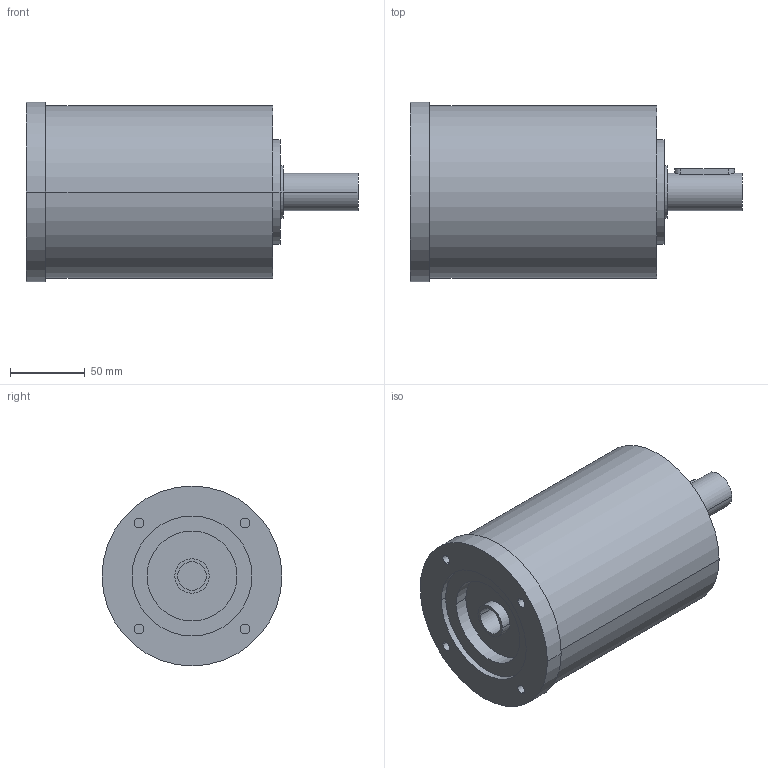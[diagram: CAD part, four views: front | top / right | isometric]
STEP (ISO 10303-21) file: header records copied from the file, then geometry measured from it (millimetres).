
FILE_DESCRIPTION(('CoCreate Modeling STEP Export'),'2;1');
FILE_NAME('GPR125_ig-9-12-16-20-28-35_25_B14_19_P05.stp','2014-08-26T14:10:38',(''),(''),'CoCreate Modeling STEP processor for AP214 (Solid Model)','CoCreate Modeling 16.00C 25-Feb-2009 (C) Parametric Technology GmbH','');
FILE_SCHEMA(('AUTOMOTIVE_DESIGN { 1 0 10303 214 1 1 1 1 }'));
Length unit declared in the file: millimetre
Products named in the file (2): GPR125_ig-9-12-16-20-28-35_25_B14_19_P05
Assembly tree (1 placements, depth 2):
  GPR125_ig-9-12-16-20-28-35_25_B14_19_P05
    GPR125_ig-9-12-16-20-28-35_25_B14_19_P05
Bounding box: 221.4 x 120 x 120 mm (x, y, z)
Volume: 1704862.4 mm3; surface area: 97807.7 mm2
Topology: 1 solids, 1 shells, 75 faces, 190 edges, 136 vertices
Faces by surface type: cylinder 46, plane 25, cone 4
Entity records: 1925 total; most frequent: ORIENTED_EDGE 376, CARTESIAN_POINT 357, DIRECTION 250, EDGE_CURVE 188, VERTEX_POINT 136, AXIS2_PLACEMENT_3D 97, EDGE_LOOP 96, FACE_OUTER_BOUND 75
